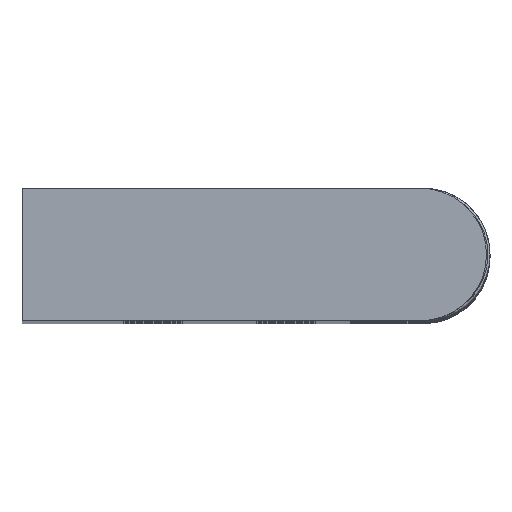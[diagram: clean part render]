
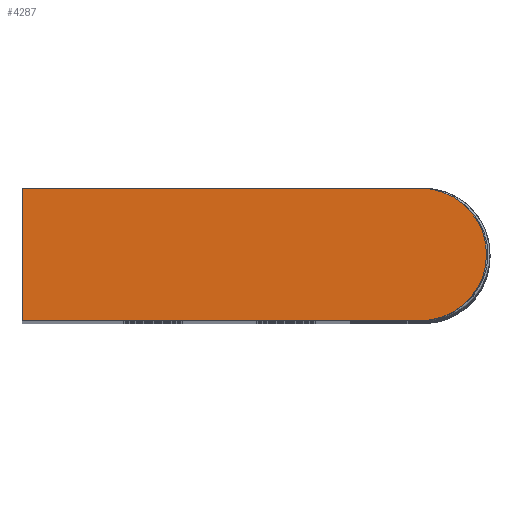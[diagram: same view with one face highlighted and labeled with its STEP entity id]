
A CAD part, top view. The second image highlights one B-rep face of the part: STEP entity #4287.
In plain terms, the highlighted planar face has unit normal (0, 0, 1).
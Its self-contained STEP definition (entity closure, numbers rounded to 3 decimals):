
#310=CARTESIAN_POINT('Vertex',(0.,19.,127.2)) ;
#313=CARTESIAN_POINT('Line Origine',(28.5,19.,127.2)) ;
#317=CARTESIAN_POINT('Vertex',(57.,19.,127.2)) ;
#689=CARTESIAN_POINT('Vertex',(57.,0.,127.2)) ;
#692=CARTESIAN_POINT('Line Origine',(28.5,0.,127.2)) ;
#696=CARTESIAN_POINT('Vertex',(0.,0.,127.2)) ;
#883=CARTESIAN_POINT('Axis2P3D Location',(57.,9.5,127.2)) ;
#1511=CARTESIAN_POINT('Line Origine',(0.,9.5,127.2)) ;
#4276=CARTESIAN_POINT('Axis2P3D Location',(57.5,9.5,127.2)) ;
#314=DIRECTION('Vector Direction',(-1.,0.,0.)) ;
#693=DIRECTION('Vector Direction',(1.,0.,0.)) ;
#884=DIRECTION('Axis2P3D Direction',(-0.,0.,-1.)) ;
#1512=DIRECTION('Vector Direction',(0.,-1.,0.)) ;
#4277=DIRECTION('Axis2P3D Direction',(0.,0.,1.)) ;
#4278=DIRECTION('Axis2P3D XDirection',(1.,0.,0.)) ;
#885=AXIS2_PLACEMENT_3D('Circle Axis2P3D',#883,#884,$) ;
#4279=AXIS2_PLACEMENT_3D('Plane Axis2P3D',#4276,#4277,#4278) ;
#4282=ORIENTED_EDGE('',*,*,#698,.T.) ;
#4283=ORIENTED_EDGE('',*,*,#887,.T.) ;
#4284=ORIENTED_EDGE('',*,*,#319,.T.) ;
#4285=ORIENTED_EDGE('',*,*,#1515,.T.) ;
#315=VECTOR('Line Direction',#314,1.) ;
#694=VECTOR('Line Direction',#693,1.) ;
#1513=VECTOR('Line Direction',#1512,1.) ;
#4287=ADVANCED_FACE('1',(#4286),#4280,.T.) ;
#886=CIRCLE('generated circle',#885,9.5) ;
#319=EDGE_CURVE('',#318,#311,#316,.T.) ;
#698=EDGE_CURVE('',#697,#690,#695,.T.) ;
#887=EDGE_CURVE('',#690,#318,#886,.F.) ;
#1515=EDGE_CURVE('',#311,#697,#1514,.T.) ;
#4281=EDGE_LOOP('',(#4282,#4283,#4284,#4285)) ;
#4286=FACE_OUTER_BOUND('',#4281,.T.) ;
#316=LINE('Line',#313,#315) ;
#695=LINE('Line',#692,#694) ;
#1514=LINE('Line',#1511,#1513) ;
#4280=PLANE('',#4279) ;
#311=VERTEX_POINT('',#310) ;
#318=VERTEX_POINT('',#317) ;
#690=VERTEX_POINT('',#689) ;
#697=VERTEX_POINT('',#696) ;
